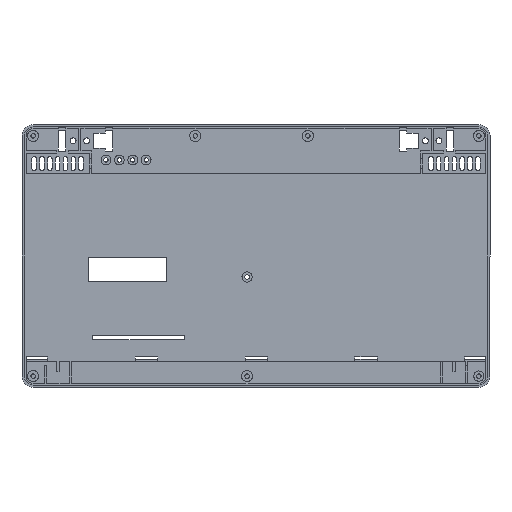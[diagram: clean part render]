
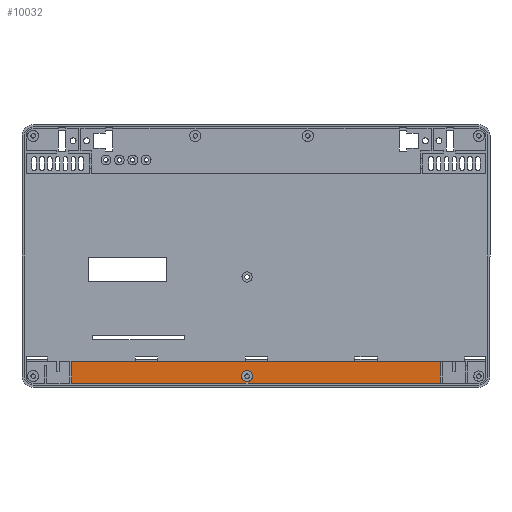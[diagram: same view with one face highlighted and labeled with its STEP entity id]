
A CAD part, front view. The second image highlights one B-rep face of the part: STEP entity #10032.
In plain terms, the highlighted planar face has unit normal (0, -1, 0).
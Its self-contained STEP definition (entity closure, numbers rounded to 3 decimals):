
#18 = VECTOR ( 'NONE', #4136, 1000. ) ;
#243 = CARTESIAN_POINT ( 'NONE',  ( 100.8, 3.5, 7.5 ) ) ;
#435 = LINE ( 'NONE', #3437, #2307 ) ;
#515 = EDGE_CURVE ( 'NONE', #1559, #11734, #9968, .T. ) ;
#553 = PLANE ( 'NONE',  #8684 ) ;
#587 = FACE_OUTER_BOUND ( 'NONE', #4491, .T. ) ;
#924 = VERTEX_POINT ( 'NONE', #8980 ) ;
#1281 = VERTEX_POINT ( 'NONE', #2420 ) ;
#1559 = VERTEX_POINT ( 'NONE', #243 ) ;
#1661 = DIRECTION ( 'NONE',  ( 0., 0., 1. ) ) ;
#1801 = DIRECTION ( 'NONE',  ( 0., 0., -1. ) ) ;
#2186 = AXIS2_PLACEMENT_3D ( 'NONE', #2643, #9073, #3567 ) ;
#2307 = VECTOR ( 'NONE', #1661, 1000. ) ;
#2362 = CARTESIAN_POINT ( 'NONE',  ( 100.3, 3.5, 2.551 ) ) ;
#2397 = CARTESIAN_POINT ( 'NONE',  ( 100.8, 3.5, 5. ) ) ;
#2420 = CARTESIAN_POINT ( 'NONE',  ( 22.2, 3.5, 1.8 ) ) ;
#2643 = CARTESIAN_POINT ( 'NONE',  ( 100.8, 3.5, 5. ) ) ;
#2827 = DIRECTION ( 'NONE',  ( -1., 0., 0. ) ) ;
#2860 = CARTESIAN_POINT ( 'NONE',  ( 100.3, 3.5, 1.8 ) ) ;
#3002 = VERTEX_POINT ( 'NONE', #4177 ) ;
#3437 = CARTESIAN_POINT ( 'NONE',  ( 22.2, 3.5, 11.6 ) ) ;
#3494 = DIRECTION ( 'NONE',  ( 0., -1., 0. ) ) ;
#3567 = DIRECTION ( 'NONE',  ( 0., 0., -1. ) ) ;
#3697 = VECTOR ( 'NONE', #2827, 1000. ) ;
#3710 = CARTESIAN_POINT ( 'NONE',  ( 207.8, 3.5, 11.6 ) ) ;
#3829 = ORIENTED_EDGE ( 'NONE', *, *, #515, .F. ) ;
#4049 = VECTOR ( 'NONE', #6982, 1000. ) ;
#4136 = DIRECTION ( 'NONE',  ( 1., 0., 0. ) ) ;
#4177 = CARTESIAN_POINT ( 'NONE',  ( 100.3, 3.5, 1.8 ) ) ;
#4356 = CARTESIAN_POINT ( 'NONE',  ( 101.3, 3.5, 2.8 ) ) ;
#4435 = AXIS2_PLACEMENT_3D ( 'NONE', #2397, #3494, #1801 ) ;
#4464 = EDGE_CURVE ( 'NONE', #1281, #3002, #9667, .T. ) ;
#4491 = EDGE_LOOP ( 'NONE', ( #7337, #8134, #9238, #8993, #3829, #9714, #8761, #6268, #9531 ) ) ;
#5082 = DIRECTION ( 'NONE',  ( 0., 0., -1. ) ) ;
#5624 = DIRECTION ( 'NONE',  ( 0., 0., 1. ) ) ;
#6025 = CARTESIAN_POINT ( 'NONE',  ( 5., 3.5, 5. ) ) ;
#6114 = EDGE_CURVE ( 'NONE', #3002, #11734, #9614, .T. ) ;
#6148 = VERTEX_POINT ( 'NONE', #10174 ) ;
#6253 = CIRCLE ( 'NONE', #2186, 2.5 ) ;
#6268 = ORIENTED_EDGE ( 'NONE', *, *, #9303, .T. ) ;
#6414 = LINE ( 'NONE', #3710, #3697 ) ;
#6587 = CARTESIAN_POINT ( 'NONE',  ( 101.3, 3.5, 1.8 ) ) ;
#6944 = EDGE_CURVE ( 'NONE', #6998, #10233, #6414, .T. ) ;
#6982 = DIRECTION ( 'NONE',  ( 0., 0., -1. ) ) ;
#6998 = VERTEX_POINT ( 'NONE', #11079 ) ;
#7164 = VERTEX_POINT ( 'NONE', #6587 ) ;
#7215 = LINE ( 'NONE', #4356, #8215 ) ;
#7337 = ORIENTED_EDGE ( 'NONE', *, *, #6944, .T. ) ;
#7574 = EDGE_CURVE ( 'NONE', #924, #1559, #6253, .T. ) ;
#7689 = LINE ( 'NONE', #8397, #8552 ) ;
#8134 = ORIENTED_EDGE ( 'NONE', *, *, #11223, .F. ) ;
#8215 = VECTOR ( 'NONE', #8359, 1000. ) ;
#8359 = DIRECTION ( 'NONE',  ( 0., 0., -1. ) ) ;
#8397 = CARTESIAN_POINT ( 'NONE',  ( 101.3, 3.5, 1.8 ) ) ;
#8461 = VECTOR ( 'NONE', #5624, 1000. ) ;
#8552 = VECTOR ( 'NONE', #10086, 1000. ) ;
#8684 = AXIS2_PLACEMENT_3D ( 'NONE', #6025, #10643, #5082 ) ;
#8761 = ORIENTED_EDGE ( 'NONE', *, *, #10199, .T. ) ;
#8870 = CARTESIAN_POINT ( 'NONE',  ( 187.397, 3.5, 1.8 ) ) ;
#8980 = CARTESIAN_POINT ( 'NONE',  ( 101.3, 3.5, 2.551 ) ) ;
#8993 = ORIENTED_EDGE ( 'NONE', *, *, #6114, .T. ) ;
#9073 = DIRECTION ( 'NONE',  ( 0., -1., 0. ) ) ;
#9153 = CARTESIAN_POINT ( 'NONE',  ( 22.2, 3.5, 11.6 ) ) ;
#9238 = ORIENTED_EDGE ( 'NONE', *, *, #4464, .T. ) ;
#9303 = EDGE_CURVE ( 'NONE', #7164, #6148, #7689, .T. ) ;
#9531 = ORIENTED_EDGE ( 'NONE', *, *, #9992, .F. ) ;
#9614 = LINE ( 'NONE', #2860, #8461 ) ;
#9657 = CARTESIAN_POINT ( 'NONE',  ( 5., 3.5, 1.8 ) ) ;
#9667 = LINE ( 'NONE', #9657, #18 ) ;
#9714 = ORIENTED_EDGE ( 'NONE', *, *, #7574, .F. ) ;
#9798 = LINE ( 'NONE', #8870, #4049 ) ;
#9968 = CIRCLE ( 'NONE', #4435, 2.5 ) ;
#9992 = EDGE_CURVE ( 'NONE', #6998, #6148, #9798, .T. ) ;
#10032 = ADVANCED_FACE ( 'NONE', ( #587 ), #553, .T. ) ;
#10086 = DIRECTION ( 'NONE',  ( 1., 0., 0. ) ) ;
#10174 = CARTESIAN_POINT ( 'NONE',  ( 187.397, 3.5, 1.8 ) ) ;
#10199 = EDGE_CURVE ( 'NONE', #924, #7164, #7215, .T. ) ;
#10233 = VERTEX_POINT ( 'NONE', #9153 ) ;
#10643 = DIRECTION ( 'NONE',  ( 0., -1., 0. ) ) ;
#11079 = CARTESIAN_POINT ( 'NONE',  ( 187.397, 3.5, 11.6 ) ) ;
#11223 = EDGE_CURVE ( 'NONE', #1281, #10233, #435, .T. ) ;
#11734 = VERTEX_POINT ( 'NONE', #2362 ) ;
